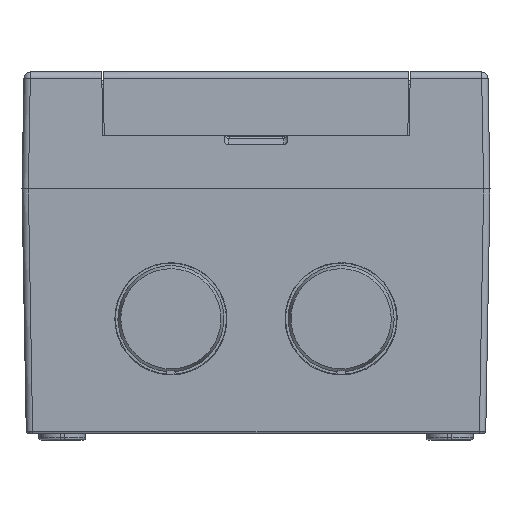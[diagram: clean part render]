
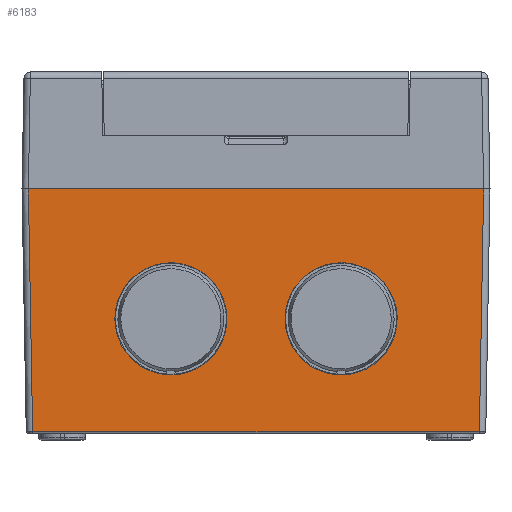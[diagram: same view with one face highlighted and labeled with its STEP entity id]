
A CAD part, front view. The second image highlights one B-rep face of the part: STEP entity #6183.
In plain terms, the highlighted planar face has unit normal (0, -1, -0.018).
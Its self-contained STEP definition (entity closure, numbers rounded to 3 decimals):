
#1098=ELLIPSE('',#39456,13.182,13.182);
#1152=ELLIPSE('',#39554,13.182,13.182);
#5776=FACE_BOUND('',#11389,.T.);
#5777=FACE_BOUND('',#11390,.T.);
#5778=FACE_BOUND('',#11391,.T.);
#6183=ADVANCED_FACE('',(#5776,#5777,#5778),#8316,.T.);
#8316=PLANE('',#39555);
#11389=EDGE_LOOP('',(#15167));
#11390=EDGE_LOOP('',(#15168));
#11391=EDGE_LOOP('',(#15169,#15170,#15171,#15172));
#15167=ORIENTED_EDGE('',*,*,#29328,.T.);
#15168=ORIENTED_EDGE('',*,*,#29089,.T.);
#15169=ORIENTED_EDGE('',*,*,#29329,.T.);
#15170=ORIENTED_EDGE('',*,*,#29330,.T.);
#15171=ORIENTED_EDGE('',*,*,#29331,.T.);
#15172=ORIENTED_EDGE('',*,*,#29272,.T.);
#25606=VERTEX_POINT('',#52438);
#25781=VERTEX_POINT('',#52836);
#25782=VERTEX_POINT('',#52838);
#25835=VERTEX_POINT('',#52970);
#25836=VERTEX_POINT('',#52972);
#25837=VERTEX_POINT('',#52974);
#29089=EDGE_CURVE('',#25606,#25606,#1098,.T.);
#29272=EDGE_CURVE('',#25782,#25781,#34437,.T.);
#29328=EDGE_CURVE('',#25835,#25835,#1152,.T.);
#29329=EDGE_CURVE('',#25781,#25836,#34469,.T.);
#29330=EDGE_CURVE('',#25836,#25837,#34470,.T.);
#29331=EDGE_CURVE('',#25837,#25782,#34471,.T.);
#34437=LINE('',#52837,#36885);
#34469=LINE('',#52971,#36917);
#34470=LINE('',#52973,#36918);
#34471=LINE('',#52975,#36919);
#36885=VECTOR('',#42910,1.);
#36917=VECTOR('',#42990,1.);
#36918=VECTOR('',#42991,1.);
#36919=VECTOR('',#42992,1.);
#39456=AXIS2_PLACEMENT_3D('',#52437,#42643,#42644);
#39554=AXIS2_PLACEMENT_3D('',#52969,#42988,#42989);
#39555=AXIS2_PLACEMENT_3D('',#52976,#42993,#42994);
#42643=DIRECTION('',(0.,1.,0.017));
#42644=DIRECTION('',(0.,0.017,-1.));
#42910=DIRECTION('',(-1.,0.,0.));
#42988=DIRECTION('',(0.,1.,0.017));
#42989=DIRECTION('',(0.,0.017,-1.));
#42990=DIRECTION('',(0.017,0.017,-1.));
#42991=DIRECTION('',(1.,0.,0.));
#42992=DIRECTION('',(0.017,-0.017,1.));
#42993=DIRECTION('',(0.,-1.,-0.017));
#42994=DIRECTION('',(0.,-0.017,1.));
#52437=CARTESIAN_POINT('',(-20.,-74.467,-42.518));
#52438=CARTESIAN_POINT('',(-20.,-74.237,-55.698));
#52836=CARTESIAN_POINT('',(-53.5,-75.,-12.));
#52837=CARTESIAN_POINT('',(0.,-75.,-12.));
#52838=CARTESIAN_POINT('',(53.5,-75.,-12.));
#52969=CARTESIAN_POINT('',(20.,-74.467,-42.518));
#52970=CARTESIAN_POINT('',(20.,-74.237,-55.698));
#52971=CARTESIAN_POINT('',(-53.484,-74.984,-12.933));
#52972=CARTESIAN_POINT('',(-52.505,-74.005,-69.009));
#52973=CARTESIAN_POINT('',(0.,-74.005,-69.009));
#52974=CARTESIAN_POINT('',(52.505,-74.005,-69.009));
#52975=CARTESIAN_POINT('',(53.484,-74.984,-12.933));
#52976=CARTESIAN_POINT('',(0.,-75.,-12.));
